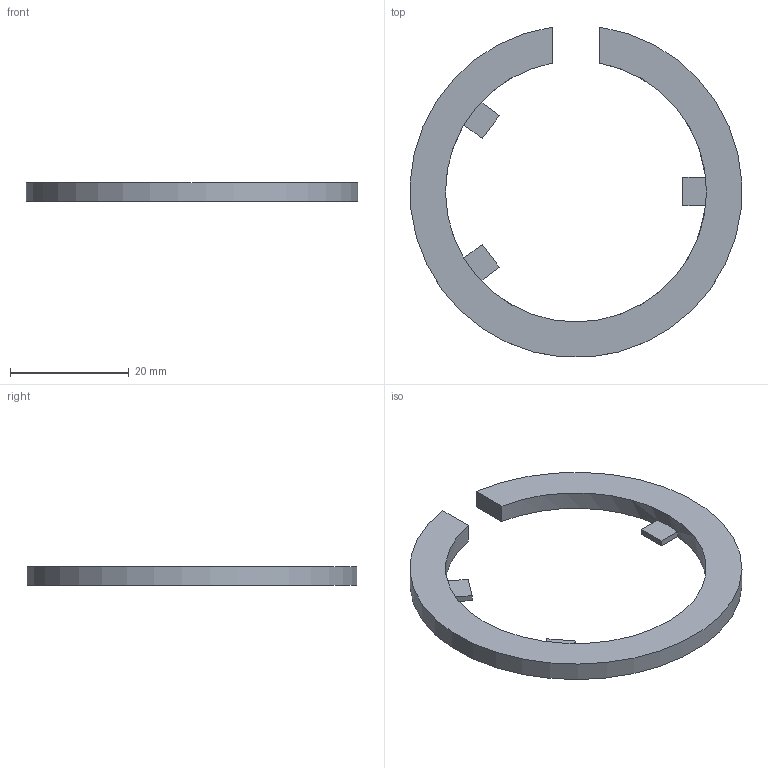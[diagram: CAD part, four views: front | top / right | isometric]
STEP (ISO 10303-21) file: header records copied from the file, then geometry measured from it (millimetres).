
FILE_DESCRIPTION(('Open CASCADE Model'),'2;1');
FILE_NAME('Open CASCADE Shape Model','2026-11-04T16:01:59',('Author'),( 'Open CASCADE'),'Open CASCADE STEP processor 7.9','Open CASCADE 7.9' ,'Unknown');
FILE_SCHEMA(('AUTOMOTIVE_DESIGN { 1 0 10303 214 1 1 1 1 }'));
Length unit declared in the file: millimetre
Products named in the file (1): Open CASCADE STEP translator 7.9 4
Bounding box: 55.91 x 55.61 x 3.2 mm (x, y, z)
Volume: 2918.6 mm3; surface area: 2918.4 mm2
Topology: 1 solids, 1 shells, 18 faces, 48 edges, 32 vertices
Faces by surface type: plane 16, cylinder 2
Entity records: 1181 total; most frequent: CARTESIAN_POINT 255, DIRECTION 157, ORIENTED_EDGE 96, PCURVE 96, DEFINITIONAL_REPRESENTATION 96, LINE 94, VECTOR 94, EDGE_CURVE 48
